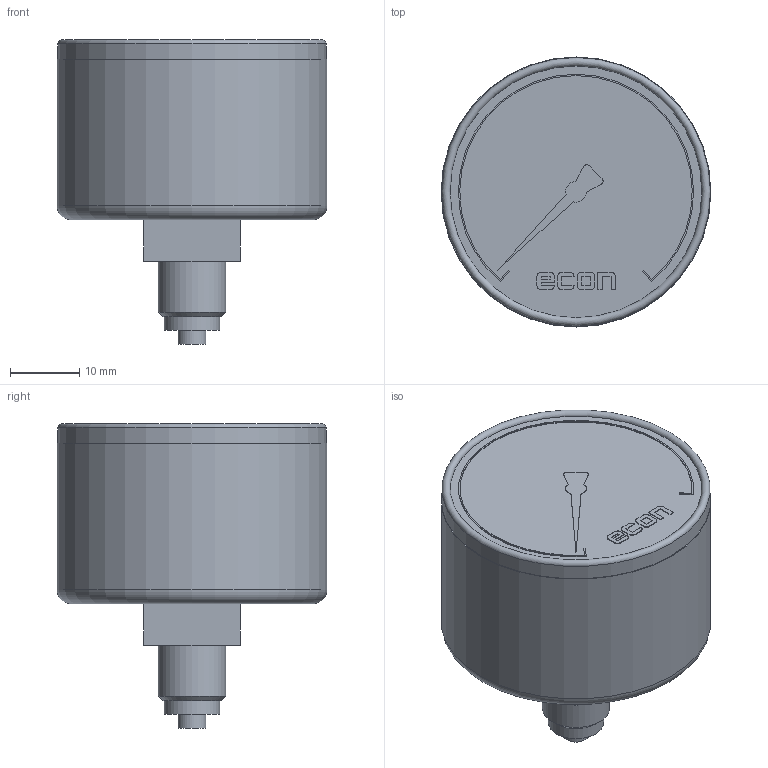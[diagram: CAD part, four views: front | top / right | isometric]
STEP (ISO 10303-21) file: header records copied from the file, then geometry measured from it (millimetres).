
FILE_DESCRIPTION(/* description */ ('Eriks item no: 10055911'),/* implementation_level */ '2;1');
FILE_NAME(/* name */ 'L:\DATA\ENG\Inventor\Econ 3D modellen\manometers & thermometers\1401A\1401A-R40 _ 0 - 16 bar.stp',/* time_stamp */ '2022-02-24T14:40:40+01:00',/* author */ ('roger.thijssen'),/* organization */ (''),/* preprocessor_version */ 'ST-DEVELOPER v18',/* originating_system */ 'Autodesk Inventor 2020',/* authorisation */ '');
FILE_SCHEMA (('AUTOMOTIVE_DESIGN { 1 0 10303 214 3 1 1 }'));
Length unit declared in the file: millimetre
Products named in the file (1): Pressure gauge, 1401A-R40 _ 0 - 16 bar
Bounding box: 39 x 39 x 44 mm (x, y, z)
Volume: 32176.7 mm3; surface area: 6145.8 mm2
Topology: 1 solids, 1 shells, 93 faces, 243 edges, 165 vertices
Faces by surface type: plane 66, cylinder 24, torus 2, cone 1
Full cylindrical faces by diameter (mm): 4 x1, 8 x1, 9.728 x1, 38.8 x1, 39 x1
Entity records: 2985 total; most frequent: CARTESIAN_POINT 502, DIRECTION 496, ORIENTED_EDGE 486, EDGE_CURVE 243, LINE 178, VECTOR 178, VERTEX_POINT 165, AXIS2_PLACEMENT_3D 159
